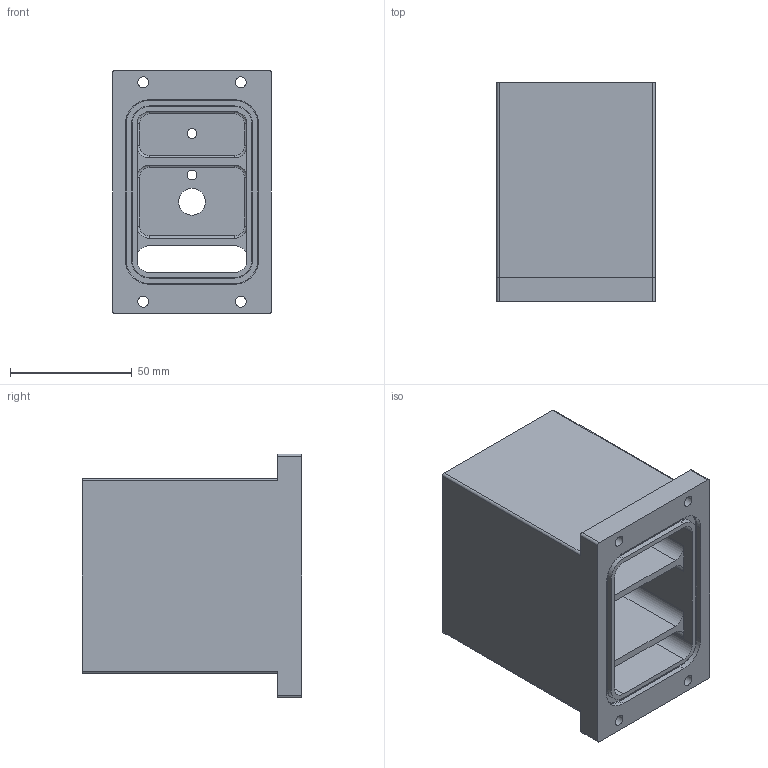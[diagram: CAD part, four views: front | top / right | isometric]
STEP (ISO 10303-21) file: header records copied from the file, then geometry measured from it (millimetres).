
FILE_DESCRIPTION(('STEP AP203'), '1');
FILE_NAME('眐珆1801.01.07.02.008 - 扻豵鵨 嚧摥鳧罻', '', ('UNSPECIFIED'), ('UNSPECIFIED'), 'C3D Converter', 'C3D Toolkit', '');
FILE_SCHEMA(('CONFIG_CONTROL_DESIGN'));
Length unit declared in the file: millimetre
Products named in the file (1): ТППФ1801.01.07.02.008
Bounding box: 65 x 90 x 100 mm (x, y, z)
Volume: 242572.8 mm3; surface area: 71668.7 mm2
Topology: 1 solids, 1 shells, 177 faces, 441 edges, 270 vertices
Faces by surface type: cylinder 87, plane 50, torus 32, cone 8
Full cylindrical faces by diameter (mm): 3.242 x4, 4 x2, 4.5 x4, 11 x1
Entity records: 6626 total; most frequent: DIRECTION 984, CARTESIAN_POINT 862, ORIENTED_EDGE 836, EDGE_CURVE 418, AXIS2_PLACEMENT_3D 388, VERTEX_POINT 266, EDGE_LOOP 216, CIRCLE 210
